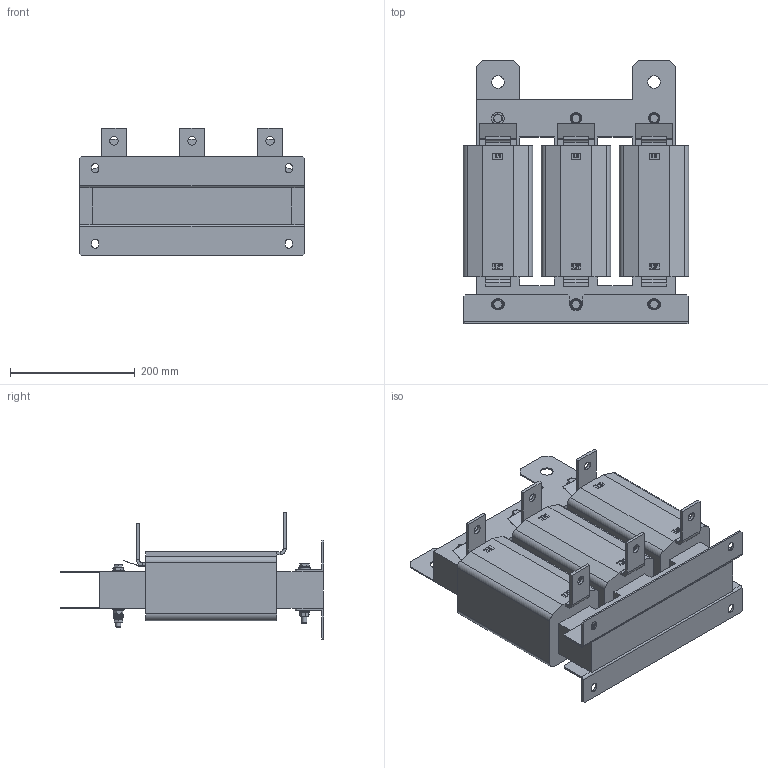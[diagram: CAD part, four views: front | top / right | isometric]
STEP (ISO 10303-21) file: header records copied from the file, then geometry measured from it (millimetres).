
FILE_DESCRIPTION(/* description */ ('raw material description'),/* implementation_level */ '2;1');
FILE_NAME(/* name */ 'C:\Users\Erika.Jenzer\Desktop\Neuer Ordner\RWK3044\RWK3044-510-99-E0XXX.stp',/* time_stamp */ '2019-11-21T15:07:58+01:00',/* author */ ('erika.jenzer'),/* organization */ ('Schaffner EMV AG'),/* preprocessor_version */ 'ST-DEVELOPER v16.5',/* originating_system */ 'Autodesk Inventor 2017',/* authorisation */ '');
FILE_SCHEMA (('AUTOMOTIVE_DESIGN { 1 0 10303 214 3 1 1 }'));
Length unit declared in the file: millimetre
Products named in the file (1): RWK3044-510-99-E0XXX
Bounding box: 361 x 422 x 203.8 mm (x, y, z)
Volume: 10462325.5 mm3; surface area: 638683.1 mm2
Topology: 39 solids, 50 shells, 1072 faces, 2638 edges, 1734 vertices
Faces by surface type: plane 737, cylinder 169, cone 109, bspline 50, torus 7
Full cylindrical faces by diameter (mm): 8 x19, 8.2 x6, 8.4 x14, 9.9 x5, 10.5 x3, 11.4 x6, 13 x1, 13.5 x6, 16 x12, 18 x5, 20 x4
Entity records: 31561 total; most frequent: CARTESIAN_POINT 6263, ORIENTED_EDGE 4972, DIRECTION 4690, EDGE_CURVE 2479, LINE 1726, VECTOR 1726, VERTEX_POINT 1693, AXIS2_PLACEMENT_3D 1482
